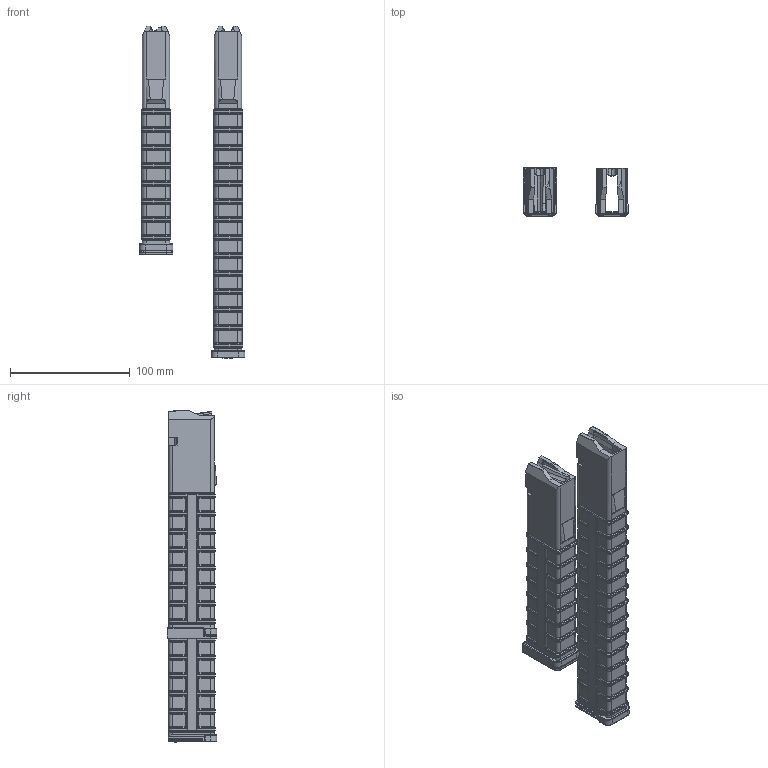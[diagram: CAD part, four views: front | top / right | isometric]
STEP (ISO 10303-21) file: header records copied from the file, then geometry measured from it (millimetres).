
FILE_DESCRIPTION(/* description */ (''),/* implementation_level */ '2;1');
FILE_NAME(/* name */ 'G:/My Drive/AWCY/00. Releases/DMB Sten Mag/DMB SVTR Mag/0.SVTR V1 Mag v11.step',/* time_stamp */ '2022-04-14T12:48:01-04:00',/* author */ (''),/* organization */ (''),/* preprocessor_version */ 'ST-DEVELOPER v18.1',/* originating_system */ 'Autodesk Translation Framework v10.14.0.1471',/* authorisation */ '');
FILE_SCHEMA (('AUTOMOTIVE_DESIGN { 1 0 10303 214 3 1 1 }'));
Products named in the file (6): 0.SVTR V1 Mag; 01. SVTR Mag Body; 01a. SVTR Mag Body XL; 02. Follower; 03. Base Plate; 04. Base Plate Lock
Assembly tree (5 placements, depth 2):
  0.SVTR V1 Mag
    01. SVTR Mag Body
    01a. SVTR Mag Body XL
    02. Follower
    03. Base Plate
    04. Base Plate Lock
Bounding box: 88.24 x 41.3 x 276.89 mm (x, y, z)
Volume: 153918.4 mm3; surface area: 126859 mm2
Topology: 5 solids, 5 shells, 2440 faces, 5773 edges, 3136 vertices
Faces by surface type: cylinder 982, bspline 619, plane 394, torus 192, sphere 177, cone 76
Full cylindrical faces by diameter (mm): 5 x1, 5.5 x1
Entity records: 88757 total; most frequent: CARTESIAN_POINT 36376, ORIENTED_EDGE 11366, DIRECTION 10186, EDGE_CURVE 5683, AXIS2_PLACEMENT_3D 3947, VERTEX_POINT 3136, EDGE_LOOP 2521, FACE_OUTER_BOUND 2440
